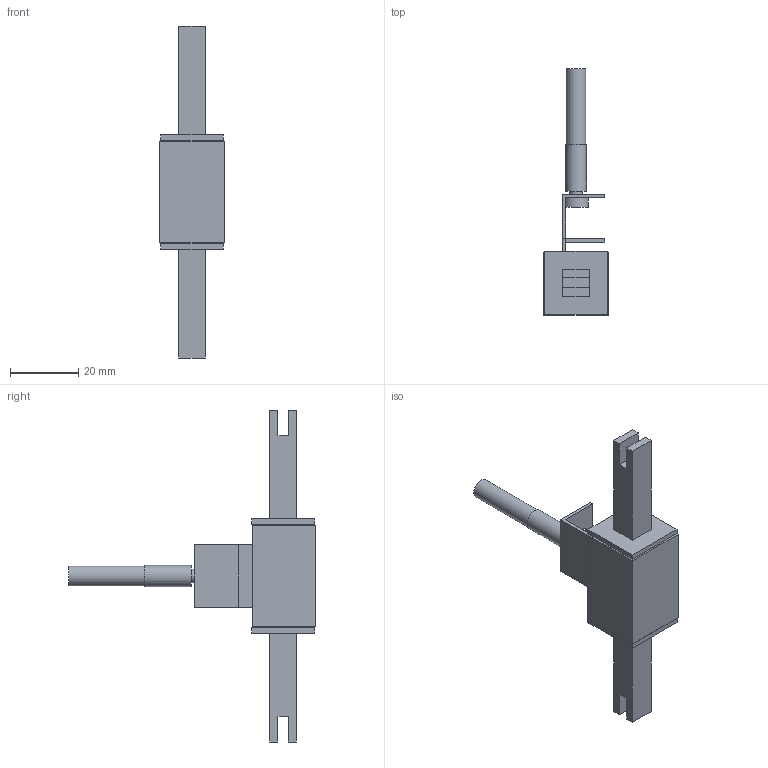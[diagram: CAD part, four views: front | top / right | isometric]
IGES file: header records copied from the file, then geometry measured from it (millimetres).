
Start section: Data from Parasolid IGES Translator 20.0.26, Copyright(c) 2006 Siemens P LM Software. All Rights Reserved.
Global section: file name: 9303944.igs; native system: By Siemens PLM Incorporated; preprocessor: XPlus GENERIC/IGES 20.0.26; author: Noname; organization: Noname; date: 20210824.171057; units: millimetre
Bounding box: 19 x 72.5 x 97.5 mm (x, y, z)
Surface area: 13423.6 mm2 (no closed solid volume)
Topology: 0 solids, 0 shells, 101 faces, 490 edges, 475 vertices
Faces by surface type: extrusion 84, revolution 17
